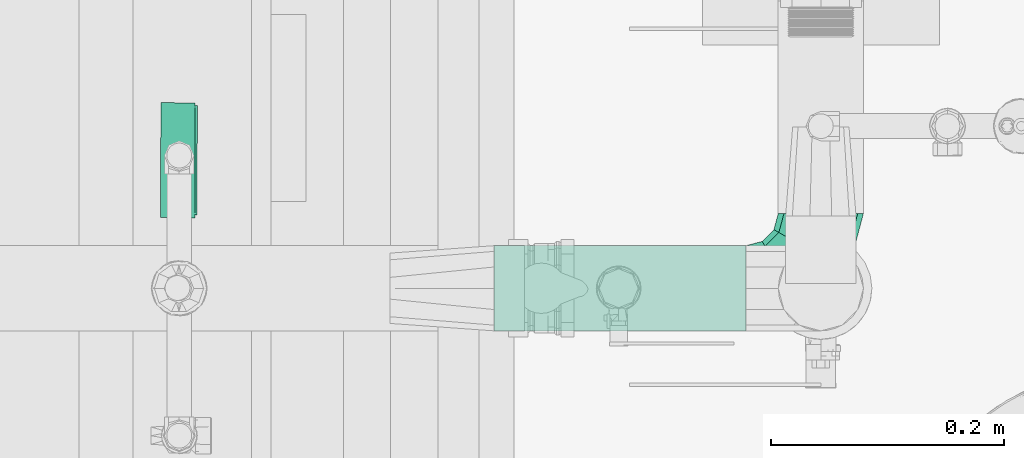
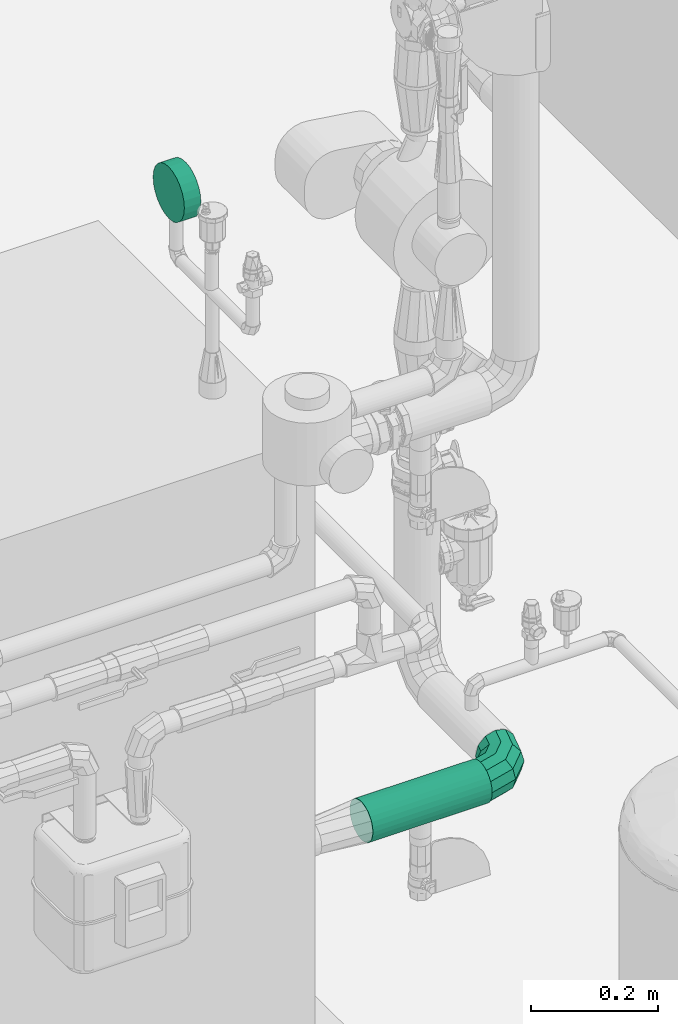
# One storey, part 19 of 43: 1 flow controller, 1 flow fitting, 1 flow segment.
"""IFC2X3 building model written with IfcOpenShell, lengths in millimetres."""

from ifc_helpers import new_model, entity, si_unit, converted_unit, derived_unit, direction, frame, origin, origin_2d_with_axis, place, context, subcontext, project, spatial, circle, extrude, faceted_brep, source, transform, mapped, material, material_list, type_object, type_shapes, element, save


model = new_model("IFC2X3")

# Units and contexts
model_context = context("Model", 3, precision=0.01, world=origin(), true_north=direction((6.123031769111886e-17, 1.0)))
body_context = subcontext(model_context, "Body", "Model", "MODEL_VIEW")
ifc_project = project(units=[si_unit("LENGTHUNIT", "METRE", prefix="MILLI"), si_unit("AREAUNIT", "SQUARE_METRE"), si_unit("VOLUMEUNIT", "CUBIC_METRE"), converted_unit("PLANEANGLEUNIT", "DEGREE", entity("IfcRatioMeasure", 0.017453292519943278), si_unit("PLANEANGLEUNIT", "RADIAN"), dimensions=[0, 0, 0, 0, 0, 0, 0]), si_unit("MASSUNIT", "GRAM", prefix="KILO"), derived_unit("MASSDENSITYUNIT", [(si_unit("MASSUNIT", "GRAM", prefix="KILO"), 1), (si_unit("LENGTHUNIT", "METRE"), -3)]), derived_unit("MOMENTOFINERTIAUNIT", [(si_unit("LENGTHUNIT", "METRE"), 4)]), si_unit("TIMEUNIT", "SECOND"), si_unit("FREQUENCYUNIT", "HERTZ"), si_unit("THERMODYNAMICTEMPERATUREUNIT", "DEGREE_CELSIUS"), derived_unit("THERMALTRANSMITTANCEUNIT", [(si_unit("MASSUNIT", "GRAM", prefix="KILO"), 1), (si_unit("THERMODYNAMICTEMPERATUREUNIT", "KELVIN"), -1), (si_unit("TIMEUNIT", "SECOND"), -3)]), derived_unit("VOLUMETRICFLOWRATEUNIT", [(si_unit("LENGTHUNIT", "METRE"), 3), (si_unit("TIMEUNIT", "SECOND"), -1)]), derived_unit("MASSFLOWRATEUNIT", [(si_unit("MASSUNIT", "GRAM", prefix="KILO"), 1), (si_unit("TIMEUNIT", "SECOND"), -1)]), derived_unit("ROTATIONALFREQUENCYUNIT", [(si_unit("TIMEUNIT", "SECOND"), -1)]), si_unit("ELECTRICCURRENTUNIT", "AMPERE"), si_unit("ELECTRICVOLTAGEUNIT", "VOLT"), si_unit("POWERUNIT", "WATT"), si_unit("FORCEUNIT", "NEWTON", prefix="KILO"), si_unit("ILLUMINANCEUNIT", "LUX"), si_unit("LUMINOUSFLUXUNIT", "LUMEN"), si_unit("LUMINOUSINTENSITYUNIT", "CANDELA"), derived_unit("USERDEFINED", [(si_unit("MASSUNIT", "GRAM", prefix="KILO"), -1), (si_unit("LENGTHUNIT", "METRE"), -2), (si_unit("TIMEUNIT", "SECOND"), 3), (si_unit("LUMINOUSFLUXUNIT", "LUMEN"), 1)]), derived_unit("SOUNDPOWERUNIT", [(si_unit("MASSUNIT", "GRAM", prefix="KILO"), 1), (si_unit("LENGTHUNIT", "METRE"), 2), (si_unit("TIMEUNIT", "SECOND"), -3)]), derived_unit("SOUNDPRESSUREUNIT", [(si_unit("MASSUNIT", "GRAM", prefix="KILO"), 1), (si_unit("LENGTHUNIT", "METRE"), -1), (si_unit("TIMEUNIT", "SECOND"), -2)]), derived_unit("LINEARVELOCITYUNIT", [(si_unit("LENGTHUNIT", "METRE"), 1), (si_unit("TIMEUNIT", "SECOND"), -1)]), si_unit("PRESSUREUNIT", "PASCAL"), derived_unit("USERDEFINED", [(si_unit("LENGTHUNIT", "METRE"), -2), (si_unit("MASSUNIT", "GRAM", prefix="KILO"), 1), (si_unit("TIMEUNIT", "SECOND"), -2)]), derived_unit("LINEARFORCEUNIT", [(si_unit("MASSUNIT", "GRAM", prefix="KILO"), 1), (si_unit("LENGTHUNIT", "METRE"), 1), (si_unit("TIMEUNIT", "SECOND"), -2), (si_unit("LENGTHUNIT", "METRE"), -1)]), derived_unit("PLANARFORCEUNIT", [(si_unit("MASSUNIT", "GRAM", prefix="KILO"), 1), (si_unit("LENGTHUNIT", "METRE"), 1), (si_unit("TIMEUNIT", "SECOND"), -2), (si_unit("LENGTHUNIT", "METRE"), -2)])], contexts=[model_context])

# Site, building, storey
site_placement = place(None, origin())
site = spatial("IfcSite", under=ifc_project, at=site_placement, Name="Default", CompositionType="ELEMENT")
building_placement = place(site_placement, origin())
building = spatial("IfcBuilding", under=site, at=building_placement, CompositionType="ELEMENT")
storey_placement = place(building_placement, frame((0.0, 0.0, 270.0)))
storey = spatial("IfcBuildingStorey", under=building, at=storey_placement, Name="Niveau 0", CompositionType="ELEMENT", Elevation=270.0)

# Flow segment
pipe_segment_type = type_object("IfcPipeSegmentType", Name="Canalisation:tube acier", PredefinedType="NOTDEFINED")
flow_segment_placement = place(storey_placement, origin())
element("IfcFlowSegment", 1, at=flow_segment_placement, inside=storey, type_object=pipe_segment_type, Name="Canalisation:tube acier", ObjectType="Canalisation:tube acier", context=body_context, shape_type="SweptSolid", body=[
    extrude(circle(Radius=36.5125, at=origin_2d_with_axis()), frame((-1962.0, -9615.0, 583.5000000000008), z_axis=(1.0, 0.0, 0.0), x_axis=(0.0, -1.0, 0.0)), (0.0, 0.0, 1.0), 215.9999999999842),
])

# Flow fitting
ifc_material_1 = material(Name="<Unnamed>")
ifc_material_list_1 = material_list([ifc_material_1, ifc_material_1])
pipe_fitting_type = type_object("IfcPipeFittingType", Name="Coude - Générique:Standard", PredefinedType="NOTDEFINED", material=ifc_material_list_1)
shared_shape_1 = source(origin(), body_context, "Body", "Brep", [
    faceted_brep([(23.03555308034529, 13.749999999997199, 0.0), (18.800625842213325, 16.19503638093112, -18.250000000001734), (31.60992723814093, 64.0, -18.250000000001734), (36.50000000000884, 64.0, 0.0), (7.230589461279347, 22.874999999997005, -31.609927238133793), (18.250000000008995, 64.0, -31.609927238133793), (-8.574374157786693, 32.0, -36.50000000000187), (0.0, 64.0, -36.50000000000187), (-24.379337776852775, 41.12499999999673, -31.609927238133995), (-18.249999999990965, 64.0, -31.609927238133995), (-35.94937415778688, 47.8049636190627, -18.250000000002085), (-31.609927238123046, 64.0, -18.250000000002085), (-40.184301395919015, 50.24999999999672, 0.0), (-36.49999999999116, 64.0, 0.0), (-35.949374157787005, 47.80496361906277, 18.249999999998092), (-31.609927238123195, 64.0, 18.249999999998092), (-24.37933777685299, 41.12499999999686, 31.609927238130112), (-18.249999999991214, 64.0, 31.609927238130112), (-8.574374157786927, 32.0, 36.49999999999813), (0.0, 64.0, 36.49999999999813), (7.2305894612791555, 22.87499999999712, 31.609927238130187), (18.250000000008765, 64.0, 31.609927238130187), (18.80062584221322, 16.195036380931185, 18.24999999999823), (31.6099272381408, 64.0, 18.24999999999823), (-13.749999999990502, -23.035553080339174, 0.0), (-16.1950363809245, -18.80062584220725, -18.250000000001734), (-22.874999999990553, -7.230589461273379, -31.609927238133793), (-32.0, 8.574374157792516, -36.50000000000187), (-41.124999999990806, 24.379337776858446, -31.609927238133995), (-47.804963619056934, 35.94937415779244, -18.250000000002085), (-50.24999999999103, 40.18430139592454, 0.0), (-47.80496361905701, 35.94937415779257, 18.249999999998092), (-41.12499999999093, 24.37933777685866, 31.609927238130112), (-32.0, 8.574374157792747, 36.49999999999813), (-22.874999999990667, -7.23058946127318, 31.609927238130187), (-16.195036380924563, -18.800625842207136, 18.24999999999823), (-64.0, -36.50000000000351, 0.0), (-64.0, -31.609927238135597, -18.250000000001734), (-64.0, -18.250000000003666, -31.609927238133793), (-64.0, 0.0, -36.50000000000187), (-64.0, 18.249999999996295, -31.609927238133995), (-64.0, 31.60992723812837, -18.250000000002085), (-64.0, 36.49999999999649, 0.0), (-64.0, 31.60992723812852, 18.249999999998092), (-64.0, 18.249999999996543, 31.609927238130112), (-64.0, 0.0, 36.49999999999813), (-64.0, -18.25000000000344, 31.609927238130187), (-64.0, -31.60992723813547, 18.24999999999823)], [[[0, 1, 2, 3]], [[1, 4, 5, 2]], [[4, 6, 7, 5]], [[6, 8, 9, 7]], [[8, 10, 11, 9]], [[10, 12, 13, 11]], [[12, 14, 15, 13]], [[14, 16, 17, 15]], [[16, 18, 19, 17]], [[18, 20, 21, 19]], [[20, 22, 23, 21]], [[22, 0, 3, 23]], [[24, 25, 1, 0]], [[25, 26, 4, 1]], [[26, 27, 6, 4]], [[27, 28, 8, 6]], [[28, 29, 10, 8]], [[29, 30, 12, 10]], [[30, 31, 14, 12]], [[31, 32, 16, 14]], [[32, 33, 18, 16]], [[33, 34, 20, 18]], [[34, 35, 22, 20]], [[35, 24, 0, 22]], [[36, 37, 25, 24]], [[37, 38, 26, 25]], [[38, 39, 27, 26]], [[39, 40, 28, 27]], [[40, 41, 29, 28]], [[41, 42, 30, 29]], [[42, 43, 31, 30]], [[43, 44, 32, 31]], [[44, 45, 33, 32]], [[45, 46, 34, 33]], [[46, 47, 35, 34]], [[47, 36, 24, 35]], [[3, 2, 5, 7, 9, 11, 13, 15, 17, 19, 21, 23]], [[47, 46, 45, 44, 43, 42, 41, 40, 39, 38, 37, 36]]]),
])
type_shapes(pipe_fitting_type, [shared_shape_1])
flow_fitting_placement = place(storey_placement, frame((-1682.0, -9615.0, 583.4999999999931)))
element("IfcFlowFitting", 2, at=flow_fitting_placement, inside=storey, type_object=pipe_fitting_type, material=ifc_material_1, Name="Coude - Générique:Standard", ObjectType="Coude - Générique:Standard", context=body_context, shape_type="MappedRepresentation", body=[
    mapped(shared_shape_1, transform((0.0, 0.0, 0.0), scale=1.0)),
])

# Flow controller
ifc_material_2 = material(Name="Plastic-AGF-White")
ifc_material_3 = material(Name="Metal-AGF-Brass")
ifc_material_4 = material(Name="Plastic-AGF-Black")
ifc_material_list_2 = material_list([ifc_material_2, ifc_material_3, ifc_material_4])
ifc_material_list_3 = material_list([ifc_material_2, ifc_material_3, ifc_material_4])
valve_type = type_object("IfcValveType", Name="Pressure_Gauge-AGF-Model_7500:Model 7500", PredefinedType="NOTDEFINED", material=ifc_material_list_3)
shared_shape_2 = source(origin(), body_context, "Body", "Brep", [
    faceted_brep([(45.31314124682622, -19.557999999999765, 48.34609914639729), (46.91161579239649, -19.557999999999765, 60.48771874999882), (45.3131412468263, -19.557999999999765, 72.62933835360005), (40.62665100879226, -19.557999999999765, 83.94352664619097), (33.171521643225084, -19.557999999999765, 93.65924039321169), (23.45580789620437, -19.557999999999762, 101.11436975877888), (12.141619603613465, -19.557999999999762, 105.80085999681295), (0.0, -19.557999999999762, 107.39933454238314), (-12.141619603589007, -19.557999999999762, 105.80085999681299), (-23.455807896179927, -19.557999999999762, 101.11436975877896), (-33.171521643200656, -19.557999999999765, 93.65924039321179), (-40.62665100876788, -19.557999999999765, 83.94352664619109), (-45.31314124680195, -19.557999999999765, 72.62933835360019), (-46.911615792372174, -19.557999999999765, 60.48771874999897), (-45.31314124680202, -19.557999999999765, 48.346099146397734), (-40.626651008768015, -19.557999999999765, 37.03191085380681), (-33.17152164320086, -19.557999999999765, 27.316197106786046), (-23.455807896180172, -19.557999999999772, 19.861067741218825), (-12.141619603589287, -19.557999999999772, 15.174577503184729), (0.0, -19.557999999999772, 13.576102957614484), (12.141619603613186, -19.557999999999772, 15.174577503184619), (23.455807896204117, -19.557999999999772, 19.861067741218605), (33.17152164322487, -19.557999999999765, 27.316197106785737), (40.62665100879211, -19.557999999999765, 37.03191085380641), (0.0, -12.802541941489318, 107.39933454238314), (12.141619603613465, -12.802541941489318, 105.80085999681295), (23.45580789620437, -12.802541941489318, 101.11436975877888), (33.171521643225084, -12.802541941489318, 93.65924039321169), (40.62665100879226, -12.802541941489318, 83.94352664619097), (45.3131412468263, -12.80254194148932, 72.62933835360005), (46.91161579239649, -12.80254194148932, 60.48771874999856), (45.31314124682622, -12.80254194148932, 48.34609914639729), (40.62665100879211, -12.802541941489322, 37.03191085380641), (33.17152164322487, -12.802541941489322, 27.316197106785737), (23.455807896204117, -12.802541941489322, 19.861067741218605), (12.141619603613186, -12.802541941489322, 15.174577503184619), (0.0, -12.802541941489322, 13.576102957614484), (-12.141619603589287, -12.802541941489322, 15.174577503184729), (-23.455807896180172, -12.802541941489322, 19.861067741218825), (-33.17152164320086, -12.802541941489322, 27.316197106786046), (-40.626651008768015, -12.802541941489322, 37.03191085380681), (-45.31314124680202, -12.80254194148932, 48.346099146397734), (-46.911615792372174, -12.80254194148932, 60.48771874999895), (-45.31314124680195, -12.80254194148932, 72.62933835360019), (-40.62665100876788, -12.802541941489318, 83.94352664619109), (-33.171521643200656, -12.802541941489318, 93.65924039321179), (-23.455807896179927, -12.802541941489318, 101.11436975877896), (-12.141619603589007, -12.802541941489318, 105.80085999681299)], [[[0, 1, 2, 3, 4, 5, 6, 7, 8, 9, 10, 11, 12, 13, 14, 15, 16, 17, 18, 19, 20, 21, 22, 23]], [[24, 25, 26, 27, 28, 29, 30, 31, 32, 33, 34, 35, 36, 37, 38, 39, 40, 41, 42, 43, 44, 45, 46, 47]], [[41, 14, 13, 42]], [[40, 15, 14, 41]], [[17, 16, 39, 38]], [[40, 39, 16, 15]], [[18, 17, 38, 37]], [[19, 18, 37, 36]], [[35, 20, 19, 36]], [[34, 21, 20, 35]], [[23, 22, 33, 32]], [[34, 33, 22, 21]], [[0, 23, 32, 31]], [[1, 0, 31, 30]], [[29, 2, 1, 30]], [[28, 3, 2, 29]], [[5, 4, 27, 26]], [[28, 27, 4, 3]], [[6, 5, 26, 25]], [[7, 6, 25, 24]], [[47, 8, 7, 24]], [[46, 9, 8, 47]], [[11, 10, 45, 44]], [[46, 45, 10, 9]], [[12, 11, 44, 43]], [[13, 12, 43, 42]]]),
    faceted_brep([(0.0, -3.174999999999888, 17.526000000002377), (0.8217504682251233, -3.066814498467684, 17.526000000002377), (1.5875000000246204, -2.749630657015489, 17.526000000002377), (2.245064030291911, -2.2450640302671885, 17.526000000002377), (2.7496306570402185, -1.5874999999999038, 17.526000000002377), (3.0668144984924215, -0.82175046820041, 17.526000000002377), (3.1750000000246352, 0.0, 17.526000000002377), (3.066814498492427, 0.8217504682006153, 17.526000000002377), (2.749630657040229, 1.5875000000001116, 17.526000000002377), (2.245064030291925, 2.2450640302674, 17.526000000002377), (1.5875000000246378, 2.7496306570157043, 17.526000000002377), (0.8217504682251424, 3.0668144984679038, 17.526000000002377), (0.0, 3.175000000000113, 17.526000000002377), (-0.8217504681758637, 3.0668144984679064, 17.526000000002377), (-1.5874999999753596, 2.749630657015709, 17.526000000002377), (-2.245064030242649, 2.2450640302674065, 17.526000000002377), (-2.7496306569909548, 1.58750000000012, 17.526000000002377), (-3.066814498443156, 0.8217504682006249, 17.526000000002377), (-3.1749999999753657, 0.0, 17.526000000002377), (-3.06681449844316, -0.8217504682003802, 17.526000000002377), (-2.7496306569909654, -1.5874999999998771, 17.526000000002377), (-2.245064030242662, -2.245064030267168, 17.526000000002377), (-1.5874999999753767, -2.7496306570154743, 17.526000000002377), (-0.8217504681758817, -3.0668144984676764, 17.526000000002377), (0.0, 3.175000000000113, 0.0), (0.8217504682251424, 3.0668144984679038, 0.0), (1.5875000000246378, 2.7496306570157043, 0.0), (2.245064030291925, 2.2450640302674, 0.0), (2.749630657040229, 1.5875000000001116, 0.0), (3.066814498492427, 0.8217504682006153, 0.0), (3.1750000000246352, 0.0, 0.0), (3.0668144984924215, -0.82175046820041, 0.0), (2.7496306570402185, -1.5874999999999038, 0.0), (2.245064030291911, -2.2450640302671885, 0.0), (1.5875000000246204, -2.749630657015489, 0.0), (0.8217504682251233, -3.066814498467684, 0.0), (0.0, -3.174999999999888, 0.0), (-0.8217504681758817, -3.0668144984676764, 0.0), (-1.5874999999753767, -2.7496306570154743, 0.0), (-2.245064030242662, -2.245064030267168, 0.0), (-2.7496306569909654, -1.5874999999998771, 0.0), (-3.06681449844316, -0.8217504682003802, 0.0), (-3.1749999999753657, 0.0, 0.0), (-3.066814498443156, 0.8217504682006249, 0.0), (-2.7496306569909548, 1.58750000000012, 0.0), (-2.245064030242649, 2.2450640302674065, 0.0), (-1.5874999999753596, 2.749630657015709, 0.0), (-0.8217504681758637, 3.0668144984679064, 0.0)], [[[0, 1, 2, 3, 4, 5, 6, 7, 8, 9, 10, 11, 12, 13, 14, 15, 16, 17, 18, 19, 20, 21, 22, 23]], [[24, 25, 26, 27, 28, 29, 30, 31, 32, 33, 34, 35, 36, 37, 38, 39, 40, 41, 42, 43, 44, 45, 46, 47]], [[41, 19, 18, 42]], [[40, 20, 19, 41]], [[22, 21, 39, 38]], [[40, 39, 21, 20]], [[23, 22, 38, 37]], [[0, 23, 37, 36]], [[35, 1, 0, 36]], [[34, 2, 1, 35]], [[4, 3, 33, 32]], [[34, 33, 3, 2]], [[5, 4, 32, 31]], [[6, 5, 31, 30]], [[29, 7, 6, 30]], [[28, 8, 7, 29]], [[10, 9, 27, 26]], [[28, 27, 9, 8]], [[11, 10, 26, 25]], [[12, 11, 25, 24]], [[47, 13, 12, 24]], [[46, 14, 13, 47]], [[16, 15, 45, 44]], [[46, 45, 15, 14]], [[17, 16, 44, 43]], [[18, 17, 43, 42]]]),
    faceted_brep([(42.67426779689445, -17.735789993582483, 85.12571874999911), (34.84339374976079, -17.7357899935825, 95.33111249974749), (40.626651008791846, -17.73578999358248, 83.94352664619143), (45.31314124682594, -17.735789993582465, 72.62933835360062), (47.59696101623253, -17.735789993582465, 73.24128601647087), (33.171521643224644, -17.735789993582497, 93.65924039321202), (24.638000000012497, -17.73578999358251, 103.16198654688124), (23.455807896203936, -17.735789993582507, 101.11436975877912), (12.141619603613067, -17.735789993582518, 105.80085999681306), (12.753567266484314, -17.73578999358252, 108.08467976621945), (0.0, -17.735789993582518, 107.39933454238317), (0.0, -17.73578999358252, 109.76371874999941), (-12.141619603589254, -17.735789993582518, 105.80085999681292), (-12.753567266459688, -17.73578999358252, 108.08467976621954), (-23.45580789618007, -17.735789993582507, 101.11436975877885), (-24.637999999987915, -17.73578999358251, 103.16198654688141), (-33.1715216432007, -17.735789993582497, 93.65924039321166), (-34.843393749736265, -17.7357899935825, 95.3311124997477), (-40.62665100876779, -17.73578999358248, 83.94352664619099), (-42.67426779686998, -17.735789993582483, 85.12571874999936), (-45.31314124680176, -17.735789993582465, 72.62933835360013), (-47.596961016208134, -17.735789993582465, 73.24128601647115), (-46.9116157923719, -17.735789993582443, 60.48771874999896), (-49.275999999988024, -17.735789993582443, 60.4877187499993), (-45.31314124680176, -17.735789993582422, 48.3460991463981), (-47.596961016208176, -17.735789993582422, 47.73415148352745), (-40.62665100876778, -17.735789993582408, 37.031910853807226), (-42.674267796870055, -17.735789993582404, 35.849718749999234), (-33.17152164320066, -17.73578999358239, 27.316197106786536), (-34.843393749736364, -17.735789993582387, 25.644325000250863), (-23.45580789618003, -17.735789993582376, 19.86106774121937), (-24.637999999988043, -17.735789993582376, 17.81345095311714), (-12.753567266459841, -17.735789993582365, 12.890757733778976), (-12.141619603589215, -17.73578999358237, 15.174577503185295), (0.0, -17.735789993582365, 11.211718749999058), (0.0, -17.73578999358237, 13.576102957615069), (12.753567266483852, -17.735789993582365, 12.890757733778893), (12.141619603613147, -17.73578999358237, 15.174577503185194), (24.638000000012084, -17.735789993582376, 17.813450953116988), (23.455807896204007, -17.735789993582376, 19.861067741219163), (34.84339374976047, -17.735789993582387, 25.64432500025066), (33.1715216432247, -17.73578999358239, 27.316197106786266), (42.67426779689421, -17.735789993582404, 35.84971874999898), (40.62665100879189, -17.735789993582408, 37.03191085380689), (47.59696101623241, -17.735789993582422, 47.734151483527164), (45.31314124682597, -17.735789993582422, 48.346099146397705), (49.27600000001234, -17.735789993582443, 60.487718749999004), (46.91161579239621, -17.735789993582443, 60.487718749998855), (-49.275999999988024, 11.728210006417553, 60.48771874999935), (-47.596961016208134, 11.728210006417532, 73.24128601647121), (-42.67426779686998, 11.728210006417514, 85.12571874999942), (-34.843393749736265, 11.728210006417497, 95.33111249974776), (-24.637999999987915, 11.728210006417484, 103.16198654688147), (-12.753567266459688, 11.728210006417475, 108.0846797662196), (0.0, 11.728210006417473, 109.76371874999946), (12.753567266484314, 11.728210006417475, 108.08467976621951), (24.638000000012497, 11.728210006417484, 103.1619865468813), (34.84339374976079, 11.728210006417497, 95.33111249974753), (42.67426779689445, 11.728210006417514, 85.12571874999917), (47.59696101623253, 11.728210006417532, 73.24128601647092), (49.27600000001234, 11.728210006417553, 60.487718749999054), (47.59696101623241, 11.728210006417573, 47.734151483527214), (42.67426779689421, 11.728210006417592, 35.84971874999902), (34.84339374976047, 11.728210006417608, 25.64432500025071), (24.638000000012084, 11.728210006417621, 17.81345095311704), (12.753567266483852, 11.72821000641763, 12.890757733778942), (0.0, 11.728210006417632, 11.21171874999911), (-12.753567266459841, 11.72821000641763, 12.89075773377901), (-24.637999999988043, 11.728210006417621, 17.81345095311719), (-34.843393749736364, 11.728210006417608, 25.644325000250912), (-42.674267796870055, 11.728210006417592, 35.849718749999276), (-47.596961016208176, 11.728210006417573, 47.7341514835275), (23.455807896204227, -3.86493611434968, 101.11436975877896), (12.141619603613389, -3.86493611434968, 105.800859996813), (0.0, -3.86493611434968, 107.3993345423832), (-12.14161960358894, -3.86493611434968, 105.80085999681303), (-23.455807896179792, -3.86493611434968, 101.11436975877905), (-33.171521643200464, -3.8649361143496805, 93.65924039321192), (-40.62665100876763, -3.864936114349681, 83.94352664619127), (-45.313141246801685, -3.8649361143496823, 72.62933835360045), (-46.9116157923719, -3.8649361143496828, 60.487718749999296), (-45.313141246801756, -3.864936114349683, 48.34609914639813), (-40.62665100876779, -3.864936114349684, 37.03191085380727), (-33.17152164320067, -3.8649361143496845, 27.31619710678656), (-23.455807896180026, -3.8649361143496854, 19.861067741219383), (-12.141619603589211, -3.8649361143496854, 15.174577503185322), (0.0, -3.8649361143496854, 13.576102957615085), (12.14161960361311, -3.8649361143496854, 15.174577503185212), (23.45580789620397, -3.8649361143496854, 19.861067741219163), (33.17152164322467, -3.8649361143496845, 27.31619710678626), (40.62665100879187, -3.864936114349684, 37.03191085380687), (45.31314124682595, -3.864936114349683, 48.34609914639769), (46.91161579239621, -3.8649361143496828, 60.48771874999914), (45.313141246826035, -3.8649361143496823, 72.6293383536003), (40.626651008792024, -3.864936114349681, 83.94352664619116), (33.17152164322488, -3.8649361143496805, 93.65924039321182)], [[[0, 1, 2]], [[0, 2, 3]], [[3, 4, 0]], [[2, 1, 5]], [[6, 5, 1]], [[5, 6, 7]], [[7, 6, 8]], [[9, 8, 6]], [[9, 10, 8]], [[10, 9, 11]], [[12, 10, 11]], [[11, 13, 12]], [[12, 13, 14]], [[15, 14, 13]], [[14, 15, 16]], [[16, 15, 17]], [[18, 16, 17]], [[17, 19, 18]], [[18, 19, 20]], [[21, 20, 19]], [[20, 21, 22]], [[22, 21, 23]], [[22, 23, 24]], [[24, 23, 25]], [[24, 25, 26]], [[27, 26, 25]], [[28, 26, 27]], [[28, 27, 29]], [[29, 30, 28]], [[31, 30, 29]], [[30, 31, 32]], [[32, 33, 30]], [[34, 33, 32]], [[34, 35, 33]], [[36, 35, 34]], [[36, 37, 35]], [[37, 36, 38]], [[38, 39, 37]], [[39, 38, 40]], [[39, 40, 41]], [[40, 42, 41]], [[43, 41, 42]], [[43, 42, 44]], [[44, 45, 43]], [[46, 45, 44]], [[4, 47, 46]], [[46, 47, 45]], [[4, 3, 47]], [[48, 49, 50, 51, 52, 53, 54, 55, 56, 57, 58, 59, 60, 61, 62, 63, 64, 65, 66, 67, 68, 69, 70, 71]], [[65, 36, 34, 66]], [[64, 38, 36, 65]], [[42, 40, 63, 62]], [[64, 63, 40, 38]], [[44, 42, 62, 61]], [[46, 44, 61, 60]], [[59, 4, 46, 60]], [[58, 0, 4, 59]], [[6, 1, 57, 56]], [[58, 57, 1, 0]], [[9, 6, 56, 55]], [[11, 9, 55, 54]], [[53, 13, 11, 54]], [[52, 15, 13, 53]], [[19, 17, 51, 50]], [[52, 51, 17, 15]], [[21, 19, 50, 49]], [[23, 21, 49, 48]], [[25, 23, 48, 71]], [[27, 25, 71, 70]], [[31, 68, 67, 32]], [[66, 34, 32, 67]], [[27, 70, 69, 29]], [[69, 68, 31, 29]], [[72, 73, 74, 75, 76, 77, 78, 79, 80, 81, 82, 83, 84, 85, 86, 87, 88, 89, 90, 91, 92, 93, 94, 95]], [[80, 22, 24, 81]], [[81, 24, 26, 82]], [[84, 83, 28, 30]], [[28, 83, 82, 26]], [[85, 84, 30, 33]], [[85, 33, 35, 86]], [[86, 35, 37, 87]], [[87, 37, 39, 88]], [[90, 89, 41, 43]], [[41, 89, 88, 39]], [[91, 90, 43, 45]], [[91, 45, 47, 92]], [[92, 47, 3, 93]], [[93, 3, 2, 94]], [[72, 95, 5, 7]], [[5, 95, 94, 2]], [[73, 72, 7, 8]], [[73, 8, 10, 74]], [[74, 10, 12, 75]], [[75, 12, 14, 76]], [[78, 77, 16, 18]], [[16, 77, 76, 14]], [[79, 78, 18, 20]], [[79, 20, 22, 80]]]),
])
type_shapes(valve_type, [shared_shape_2])
flow_controller_placement = place(storey_placement, frame((-2235.9148852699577, -9505.311926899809, 1759.4540917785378), z_axis=(0.0, 0.0, 1.0), x_axis=(0.002229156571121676, 0.9999975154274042, 0.0)))
element("IfcFlowController", 3, at=flow_controller_placement, inside=storey, type_object=valve_type, material=ifc_material_list_2, Name="Pressure_Gauge-AGF-Model_7500:Model 7500", ObjectType="Pressure_Gauge-AGF-Model_7500:Model 7500", context=body_context, shape_type="MappedRepresentation", body=[
    mapped(shared_shape_2, transform((0.0, 0.0, 0.0), scale=1.0)),
])

save(model, "model.ifc")
